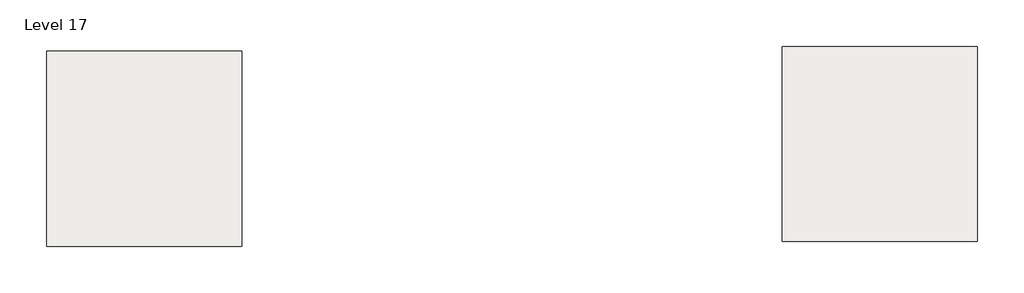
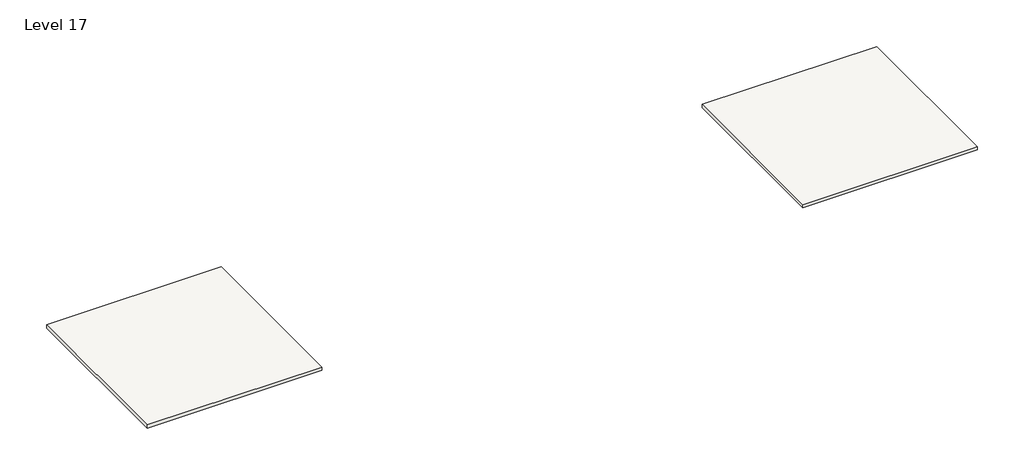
# One storey: 2 slabs.
"""IFC4 building model written with IfcOpenShell, lengths in millimetres."""

import ifcopenshell
import ifcopenshell.guid

model = None  # the IFC model being written
_history = None  # IfcOwnerHistory: only IFC2X3 demands one
_inside = {}  # id of a spatial element -> (the spatial element, [elements in it])
_under = {}  # id of a project, library or spatial element -> (it, [spatial elements below it])
_declared = {}  # id of a project -> (the project, [libraries it declares])
_typed = {}  # id of a type object -> (the type object, [elements of that type])
_made_of = {}  # id of a material, layer set ... -> (it, [elements and type objects made of it])


def new_model(schema):
    """Start an empty IFC model of exactly this schema.

    Asked for "IFC4X3", IfcOpenShell would pick the latest addendum, in which some entities
    have other attributes; the version numbers below select the first issue.
    IFC2X3 requires an IfcOwnerHistory on every rooted entity: one is made here for all.
    """
    global model, _history
    if schema == "IFC4X3":
        model = ifcopenshell.file(schema_version=(4, 3, 0, 0))
    else:
        model = ifcopenshell.file(schema=schema)
    _inside.clear()
    _under.clear()
    _declared.clear()
    _typed.clear()
    _made_of.clear()
    _history = None
    if model.schema == "IFC2X3":
        org = make("IfcOrganization", Name="unknown")
        user = make(
            "IfcPersonAndOrganization",
            ThePerson=make("IfcPerson", FamilyName="unknown"),
            TheOrganization=org,
        )
        app = make(
            "IfcApplication",
            ApplicationDeveloper=org,
            Version="unknown",
            ApplicationFullName="unknown",
            ApplicationIdentifier="unknown",
        )
        _history = make(
            "IfcOwnerHistory",
            OwningUser=user,
            OwningApplication=app,
            ChangeAction="ADDED",
            CreationDate=0,
        )
    return model


def make(cls, **values):
    """One entity of the class cls with the attributes given. An attribute that is None is left unset."""
    return model.create_entity(
        cls, **{name: value for name, value in values.items() if value is not None}
    )


def rooted(cls, **values):
    """An entity with a GlobalId (a new one), such as an element, a storey or a relation."""
    return make(cls, GlobalId=ifcopenshell.guid.new(), OwnerHistory=_history, **values)


def si_unit(unit_type, name, prefix=None):
    """IfcSIUnit, for example si_unit("LENGTHUNIT", "METRE", prefix="MILLI")."""
    return make("IfcSIUnit", UnitType=unit_type, Prefix=prefix, Name=name)


def assignment(units):
    """IfcUnitAssignment: the units of a project."""
    return None if units is None else make("IfcUnitAssignment", Units=units)


def point(xyz):
    """IfcCartesianPoint."""
    return None if xyz is None else make("IfcCartesianPoint", Coordinates=xyz)


def direction(xyz):
    """IfcDirection."""
    return None if xyz is None else make("IfcDirection", DirectionRatios=xyz)


def frame(location, z_axis=None, x_axis=None):
    """IfcAxis2Placement3D, a coordinate frame: its origin and axes. An axis left out is left unset."""
    return make(
        "IfcAxis2Placement3D",
        Location=point(location),
        Axis=direction(z_axis),
        RefDirection=direction(x_axis),
    )


def origin():
    """The frame at (0, 0, 0) with its axes left unset."""
    return frame((0.0, 0.0, 0.0))


def place(relative_to, where):
    """IfcLocalPlacement: puts the frame where relative to a parent placement (None: the world)."""
    return make(
        "IfcLocalPlacement", PlacementRelTo=relative_to, RelativePlacement=where
    )


def context(
    kind, dimensions, precision=None, world=None, true_north=None, identifier=None
):
    """IfcGeometricRepresentationContext, for example the 3D "Model" context."""
    return make(
        "IfcGeometricRepresentationContext",
        ContextIdentifier=identifier,
        ContextType=kind,
        CoordinateSpaceDimension=dimensions,
        Precision=precision,
        WorldCoordinateSystem=world,
        TrueNorth=true_north,
    )


def project(units=None, contexts=None):
    """IfcProject with its units and contexts."""
    return rooted(
        "IfcProject",
        Name="project",
        RepresentationContexts=contexts,
        UnitsInContext=assignment(units),
    )


def spatial(cls, under=None, at=None, **own):
    """A site, building, storey or space (cls), placed at a placement, below another one or the project."""
    s = rooted(cls, ObjectPlacement=at, **own)
    if under is not None:
        _under.setdefault(under.id(), (under, []))[1].append(s)
    return s


def polyline(points):
    """IfcPolyline through the points."""
    return make("IfcPolyline", Points=[point(p) for p in points])


def outline(outer, holes=None, kind="AREA"):
    """IfcArbitraryClosedProfileDef: a profile drawn as a closed curve; with holes, ...WithVoids."""
    if holes is None:
        return make("IfcArbitraryClosedProfileDef", ProfileType=kind, OuterCurve=outer)
    return make(
        "IfcArbitraryProfileDefWithVoids",
        ProfileType=kind,
        OuterCurve=outer,
        InnerCurves=holes,
    )


def extrude(swept, where, along, depth):
    """IfcExtrudedAreaSolid: the profile swept, set in the frame where, extruded along a direction by depth."""
    return make(
        "IfcExtrudedAreaSolid",
        SweptArea=swept,
        Position=where,
        ExtrudedDirection=direction(along),
        Depth=depth,
    )


def shape(context_of_items, identifier, shape_type, items):
    """IfcShapeRepresentation: the items that make up one representation, for example the "Body"."""
    return make(
        "IfcShapeRepresentation",
        ContextOfItems=context_of_items,
        RepresentationIdentifier=identifier,
        RepresentationType=shape_type,
        Items=items,
    )


def made_of(thing, what):
    """Note that an element or type object is made of a material, layer set ...; save() writes the relation."""
    if what is not None:
        _made_of.setdefault(what.id(), (what, []))[1].append(thing)
    return thing


def element(
    cls,
    number,
    at=None,
    inside=None,
    cuts=None,
    type_object=None,
    material=None,
    context=None,
    identifier="Body",
    shape_type=None,
    held_by="IfcProductDefinitionShape",
    body=None,
    shapes=None,
    **own,
):
    """One element of the class cls, such as IfcWall. Its Tag is "e" and its number.

    at: its placement. inside: the storey or other place that contains it. cuts: it is an
    opening in that element (IfcRelVoidsElement). A single representation is given by context,
    identifier, shape_type and body (its items); several are given by shapes. held_by: the class
    of the entity that holds the representations. save() writes the other relations.
    """
    e = rooted(cls, Tag="e%d" % number, ObjectPlacement=at, **own)
    if body is not None:
        shapes = [shape(context, identifier, shape_type, body)]
    if shapes is not None:
        e.Representation = make(held_by, Representations=shapes)
    if inside is not None:
        _inside.setdefault(inside.id(), (inside, []))[1].append(e)
    if cuts is not None:
        rooted(
            "IfcRelVoidsElement", RelatingBuildingElement=cuts, RelatedOpeningElement=e
        )
    if type_object is not None:
        _typed.setdefault(type_object.id(), (type_object, []))[1].append(e)
    return made_of(e, material)


def aggregate(whole, parts):
    """IfcRelAggregates: a whole, such as a stair, and the parts it consists of."""
    return rooted("IfcRelAggregates", RelatingObject=whole, RelatedObjects=parts)


def save(model, path):
    """Write the relations noted so far, then the file.

    IfcRelAggregates (storeys below a building ...), IfcRelContainedInSpatialStructure (elements
    in a storey), IfcRelDefinesByType, IfcRelAssociatesMaterial and IfcRelDeclares: one each for
    every whole, place, type object, material and project.
    """
    for whole, parts in _under.values():
        aggregate(whole, parts)
    for where, things in _inside.values():
        rooted(
            "IfcRelContainedInSpatialStructure",
            RelatedElements=things,
            RelatingStructure=where,
        )
    for kind, things in _typed.values():
        rooted("IfcRelDefinesByType", RelatedObjects=things, RelatingType=kind)
    for what, things in _made_of.values():
        rooted("IfcRelAssociatesMaterial", RelatedObjects=things, RelatingMaterial=what)
    for by, libraries in _declared.values():
        rooted("IfcRelDeclares", RelatingContext=by, RelatedDefinitions=libraries)
    model.write(path)


model = new_model("IFC4")

# Units and contexts
model_context = context("Model", 3, world=origin())
ifc_project = project(units=[si_unit("LENGTHUNIT", "METRE", prefix="MILLI")], contexts=[model_context])

# Site, building, storey
site = spatial("IfcSite", under=ifc_project)
building = spatial("IfcBuilding", under=site)
storey = spatial("IfcBuildingStorey", under=building, Name="Level 17", Elevation=48768.0)

# Slabs
placement = place(None, origin())
element("IfcSlab", 1, ObjectType="Generic - 12\"", at=placement, inside=storey, context=model_context, shape_type="SweptSolid", body=[
    extrude(outline(polyline([(-5599.4161695, 9497.9495511), (-5599.4161695, -5742.0504489), (-20839.4161695, -5742.0504489), (-20839.4161695, 9497.9495511), (-5599.4161695, 9497.9495511)])), frame((0.0, 0.0, 48463.2), z_axis=(0.0, 0.0, 1.0), x_axis=(1.0, 0.0, 0.0)), (0.0, 0.0, 1.0), 304.8),
])
element("IfcSlab", 2, ObjectType="Generic - 12\"", at=placement, inside=storey, context=model_context, shape_type="SweptSolid", body=[
    extrude(outline(polyline([(51834.2903978, 9875.0904402), (51834.2903978, -5364.9095598), (36594.2903978, -5364.9095598), (36594.2903978, 9875.0904402), (51834.2903978, 9875.0904402)])), frame((0.0, 0.0, 48463.2), z_axis=(0.0, 0.0, 1.0), x_axis=(1.0, 0.0, 0.0)), (0.0, 0.0, 1.0), 304.8),
])

save(model, "model.ifc")
